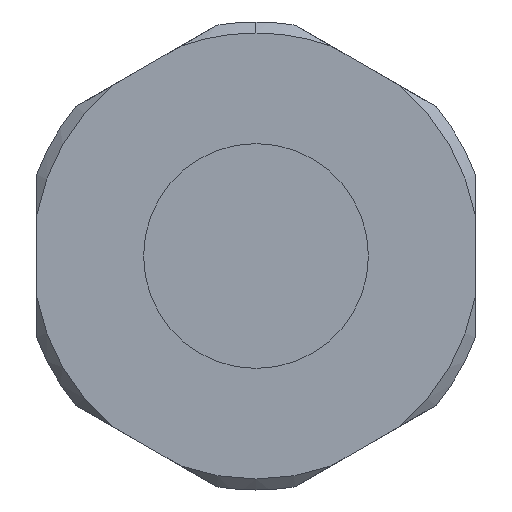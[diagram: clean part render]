
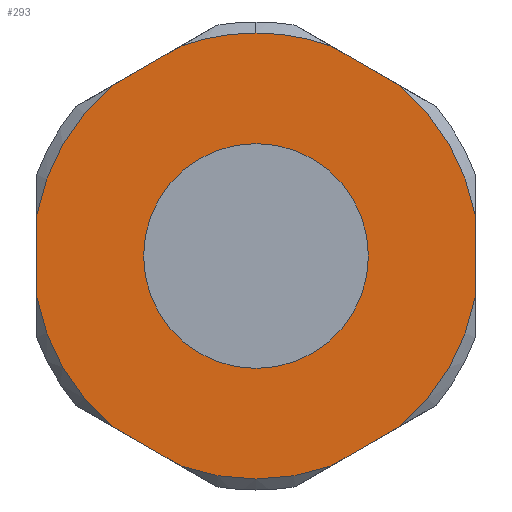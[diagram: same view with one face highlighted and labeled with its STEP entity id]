
A CAD part, front view. The second image highlights one B-rep face of the part: STEP entity #293.
In plain terms, the highlighted planar face has unit normal (0, -1, 0).
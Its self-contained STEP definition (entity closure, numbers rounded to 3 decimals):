
#3 = CARTESIAN_POINT ( 'NONE',  ( -30., 0., 0. ) ) ;
#21 = VERTEX_POINT ( 'NONE', #410 ) ;
#65 = DIRECTION ( 'NONE',  ( 0., -1., 0. ) ) ;
#80 = EDGE_CURVE ( 'NONE', #656, #1175, #880, .T. ) ;
#125 = DIRECTION ( 'NONE',  ( 1., 0., 0. ) ) ;
#139 = DIRECTION ( 'NONE',  ( 0., 0., 1. ) ) ;
#142 = CARTESIAN_POINT ( 'NONE',  ( -30., 0., -5.5 ) ) ;
#157 = DIRECTION ( 'NONE',  ( 0., 1., 0. ) ) ;
#179 = EDGE_CURVE ( 'NONE', #1154, #182, #842, .T. ) ;
#182 = VERTEX_POINT ( 'NONE', #1058 ) ;
#188 = DIRECTION ( 'NONE',  ( 0., -1., 0. ) ) ;
#192 = CARTESIAN_POINT ( 'NONE',  ( 0., 0., 0. ) ) ;
#195 = DIRECTION ( 'NONE',  ( 1., 0., 0. ) ) ;
#209 = CARTESIAN_POINT ( 'NONE',  ( 30., 0., 0. ) ) ;
#216 = EDGE_LOOP ( 'NONE', ( #1456, #743 ) ) ;
#260 = CARTESIAN_POINT ( 'NONE',  ( -19.763, 0., -23.231 ) ) ;
#293 = ADVANCED_FACE ( 'NONE', ( #767, #765 ), #1349, .F. ) ;
#303 = CARTESIAN_POINT ( 'NONE',  ( 0., 0., 0. ) ) ;
#325 = CIRCLE ( 'NONE', #658, 30.5 ) ;
#329 = CARTESIAN_POINT ( 'NONE',  ( 19.763, 0., -23.231 ) ) ;
#352 = DIRECTION ( 'NONE',  ( 0.866, 0., 0.5 ) ) ;
#365 = CIRCLE ( 'NONE', #733, 30.5 ) ;
#369 = CARTESIAN_POINT ( 'NONE',  ( 15., 0., -25.981 ) ) ;
#373 = CIRCLE ( 'NONE', #746, 30.5 ) ;
#410 = CARTESIAN_POINT ( 'NONE',  ( 30., 0., -5.5 ) ) ;
#430 = CIRCLE ( 'NONE', #795, 30.5 ) ;
#463 = VECTOR ( 'NONE', #760, 1000. ) ;
#470 = LINE ( 'NONE', #209, #463 ) ;
#475 = CIRCLE ( 'NONE', #834, 15.375 ) ;
#477 = VECTOR ( 'NONE', #1103, 1000. ) ;
#478 = LINE ( 'NONE', #3, #477 ) ;
#479 = EDGE_CURVE ( 'NONE', #1044, #984, #717, .T. ) ;
#484 = VECTOR ( 'NONE', #505, 1000. ) ;
#493 = LINE ( 'NONE', #931, #484 ) ;
#505 = DIRECTION ( 'NONE',  ( -0.866, 0., 0.5 ) ) ;
#561 = VECTOR ( 'NONE', #1367, 1000. ) ;
#563 = LINE ( 'NONE', #1363, #561 ) ;
#580 = CIRCLE ( 'NONE', #947, 30.5 ) ;
#604 = CARTESIAN_POINT ( 'NONE',  ( 19.763, 0., 23.231 ) ) ;
#607 = DIRECTION ( 'NONE',  ( 0.866, 0., -0.5 ) ) ;
#608 = VERTEX_POINT ( 'NONE', #329 ) ;
#616 = CIRCLE ( 'NONE', #966, 30.5 ) ;
#649 = VECTOR ( 'NONE', #352, 1000. ) ;
#652 = LINE ( 'NONE', #369, #649 ) ;
#653 = EDGE_CURVE ( 'NONE', #1280, #608, #652, .T. ) ;
#656 = VERTEX_POINT ( 'NONE', #260 ) ;
#658 = AXIS2_PLACEMENT_3D ( 'NONE', #822, #824, #761 ) ;
#671 = CARTESIAN_POINT ( 'NONE',  ( -15., 0., -25.981 ) ) ;
#717 = CIRCLE ( 'NONE', #1281, 15.375 ) ;
#731 = CARTESIAN_POINT ( 'NONE',  ( -30., 0., -30.866 ) ) ;
#733 = AXIS2_PLACEMENT_3D ( 'NONE', #303, #157, #1557 ) ;
#743 = ORIENTED_EDGE ( 'NONE', *, *, #479, .F. ) ;
#746 = AXIS2_PLACEMENT_3D ( 'NONE', #1401, #1550, #139 ) ;
#760 = DIRECTION ( 'NONE',  ( 0., 0., 1. ) ) ;
#761 = DIRECTION ( 'NONE',  ( 0., 0., 1. ) ) ;
#765 = FACE_OUTER_BOUND ( 'NONE', #1487, .T. ) ;
#767 = FACE_BOUND ( 'NONE', #216, .T. ) ;
#773 = VERTEX_POINT ( 'NONE', #604 ) ;
#795 = AXIS2_PLACEMENT_3D ( 'NONE', #1384, #879, #1425 ) ;
#822 = CARTESIAN_POINT ( 'NONE',  ( 0., 0., 0. ) ) ;
#824 = DIRECTION ( 'NONE',  ( 0., 1., 0. ) ) ;
#834 = AXIS2_PLACEMENT_3D ( 'NONE', #937, #65, #125 ) ;
#842 = CIRCLE ( 'NONE', #1315, 30.5 ) ;
#871 = VECTOR ( 'NONE', #607, 1000. ) ;
#879 = DIRECTION ( 'NONE',  ( 0., 1., 0. ) ) ;
#880 = LINE ( 'NONE', #671, #871 ) ;
#931 = CARTESIAN_POINT ( 'NONE',  ( 15., 0., 25.981 ) ) ;
#937 = CARTESIAN_POINT ( 'NONE',  ( 0., 0., 0. ) ) ;
#941 = CARTESIAN_POINT ( 'NONE',  ( 15.375, 0., 0. ) ) ;
#944 = CARTESIAN_POINT ( 'NONE',  ( 10.237, 0., 28.731 ) ) ;
#947 = AXIS2_PLACEMENT_3D ( 'NONE', #1380, #1391, #1405 ) ;
#960 = VERTEX_POINT ( 'NONE', #944 ) ;
#966 = AXIS2_PLACEMENT_3D ( 'NONE', #1282, #1305, #1310 ) ;
#984 = VERTEX_POINT ( 'NONE', #941 ) ;
#1005 = CARTESIAN_POINT ( 'NONE',  ( -15.375, 0., 0. ) ) ;
#1042 = CARTESIAN_POINT ( 'NONE',  ( 0., 0., 0. ) ) ;
#1044 = VERTEX_POINT ( 'NONE', #1005 ) ;
#1050 = ORIENTED_EDGE ( 'NONE', *, *, #1447, .T. ) ;
#1051 = DIRECTION ( 'NONE',  ( 0., 1., 0. ) ) ;
#1053 = ORIENTED_EDGE ( 'NONE', *, *, #179, .F. ) ;
#1054 = VERTEX_POINT ( 'NONE', #1105 ) ;
#1057 = DIRECTION ( 'NONE',  ( 0., 0., 1. ) ) ;
#1058 = CARTESIAN_POINT ( 'NONE',  ( -19.763, 0., 23.231 ) ) ;
#1083 = ORIENTED_EDGE ( 'NONE', *, *, #80, .T. ) ;
#1098 = ORIENTED_EDGE ( 'NONE', *, *, #1192, .F. ) ;
#1103 = DIRECTION ( 'NONE',  ( 0., 0., -1. ) ) ;
#1105 = CARTESIAN_POINT ( 'NONE',  ( -10.237, 0., 28.731 ) ) ;
#1120 = ORIENTED_EDGE ( 'NONE', *, *, #1510, .F. ) ;
#1132 = ORIENTED_EDGE ( 'NONE', *, *, #1635, .F. ) ;
#1133 = EDGE_CURVE ( 'NONE', #1187, #1054, #616, .T. ) ;
#1145 = ORIENTED_EDGE ( 'NONE', *, *, #1556, .T. ) ;
#1147 = ORIENTED_EDGE ( 'NONE', *, *, #1438, .T. ) ;
#1154 = VERTEX_POINT ( 'NONE', #1366 ) ;
#1164 = EDGE_CURVE ( 'NONE', #1054, #182, #563, .T. ) ;
#1169 = ORIENTED_EDGE ( 'NONE', *, *, #1164, .T. ) ;
#1175 = VERTEX_POINT ( 'NONE', #1371 ) ;
#1177 = ORIENTED_EDGE ( 'NONE', *, *, #1566, .F. ) ;
#1187 = VERTEX_POINT ( 'NONE', #1388 ) ;
#1188 = CARTESIAN_POINT ( 'NONE',  ( 30., 0., 5.5 ) ) ;
#1190 = ORIENTED_EDGE ( 'NONE', *, *, #1133, .T. ) ;
#1192 = EDGE_CURVE ( 'NONE', #1280, #1175, #580, .T. ) ;
#1233 = AXIS2_PLACEMENT_3D ( 'NONE', #731, #1571, #1615 ) ;
#1280 = VERTEX_POINT ( 'NONE', #1449 ) ;
#1281 = AXIS2_PLACEMENT_3D ( 'NONE', #192, #188, #195 ) ;
#1282 = CARTESIAN_POINT ( 'NONE',  ( 0., 0., 0. ) ) ;
#1305 = DIRECTION ( 'NONE',  ( 0., -1., 0. ) ) ;
#1310 = DIRECTION ( 'NONE',  ( 0., 0., 1. ) ) ;
#1315 = AXIS2_PLACEMENT_3D ( 'NONE', #1042, #1051, #1057 ) ;
#1349 = PLANE ( 'NONE',  #1233 ) ;
#1362 = VERTEX_POINT ( 'NONE', #1188 ) ;
#1363 = CARTESIAN_POINT ( 'NONE',  ( -15., 0., 25.981 ) ) ;
#1366 = CARTESIAN_POINT ( 'NONE',  ( -30., 0., 5.5 ) ) ;
#1367 = DIRECTION ( 'NONE',  ( -0.866, 0., -0.5 ) ) ;
#1371 = CARTESIAN_POINT ( 'NONE',  ( -10.237, 0., -28.731 ) ) ;
#1380 = CARTESIAN_POINT ( 'NONE',  ( 0., 0., 0. ) ) ;
#1384 = CARTESIAN_POINT ( 'NONE',  ( 0., 0., 0. ) ) ;
#1388 = CARTESIAN_POINT ( 'NONE',  ( 0., 0., 30.5 ) ) ;
#1391 = DIRECTION ( 'NONE',  ( 0., 1., 0. ) ) ;
#1401 = CARTESIAN_POINT ( 'NONE',  ( 0., 0., 0. ) ) ;
#1405 = DIRECTION ( 'NONE',  ( 0., 0., 1. ) ) ;
#1425 = DIRECTION ( 'NONE',  ( 0., 0., 1. ) ) ;
#1438 = EDGE_CURVE ( 'NONE', #773, #960, #493, .T. ) ;
#1444 = VERTEX_POINT ( 'NONE', #142 ) ;
#1447 = EDGE_CURVE ( 'NONE', #1154, #1444, #478, .T. ) ;
#1449 = CARTESIAN_POINT ( 'NONE',  ( 10.237, 0., -28.731 ) ) ;
#1454 = ORIENTED_EDGE ( 'NONE', *, *, #1464, .T. ) ;
#1456 = ORIENTED_EDGE ( 'NONE', *, *, #1458, .F. ) ;
#1458 = EDGE_CURVE ( 'NONE', #984, #1044, #475, .T. ) ;
#1463 = ORIENTED_EDGE ( 'NONE', *, *, #653, .T. ) ;
#1464 = EDGE_CURVE ( 'NONE', #21, #1362, #470, .T. ) ;
#1487 = EDGE_LOOP ( 'NONE', ( #1463, #1132, #1454, #1177, #1147, #1145, #1190, #1169, #1053, #1050, #1120, #1083, #1098 ) ) ;
#1510 = EDGE_CURVE ( 'NONE', #656, #1444, #430, .T. ) ;
#1550 = DIRECTION ( 'NONE',  ( 0., -1., 0. ) ) ;
#1556 = EDGE_CURVE ( 'NONE', #960, #1187, #373, .T. ) ;
#1557 = DIRECTION ( 'NONE',  ( 0., 0., 1. ) ) ;
#1566 = EDGE_CURVE ( 'NONE', #773, #1362, #365, .T. ) ;
#1571 = DIRECTION ( 'NONE',  ( 0., 1., 0. ) ) ;
#1615 = DIRECTION ( 'NONE',  ( 0., 0., 1. ) ) ;
#1635 = EDGE_CURVE ( 'NONE', #21, #608, #325, .T. ) ;
